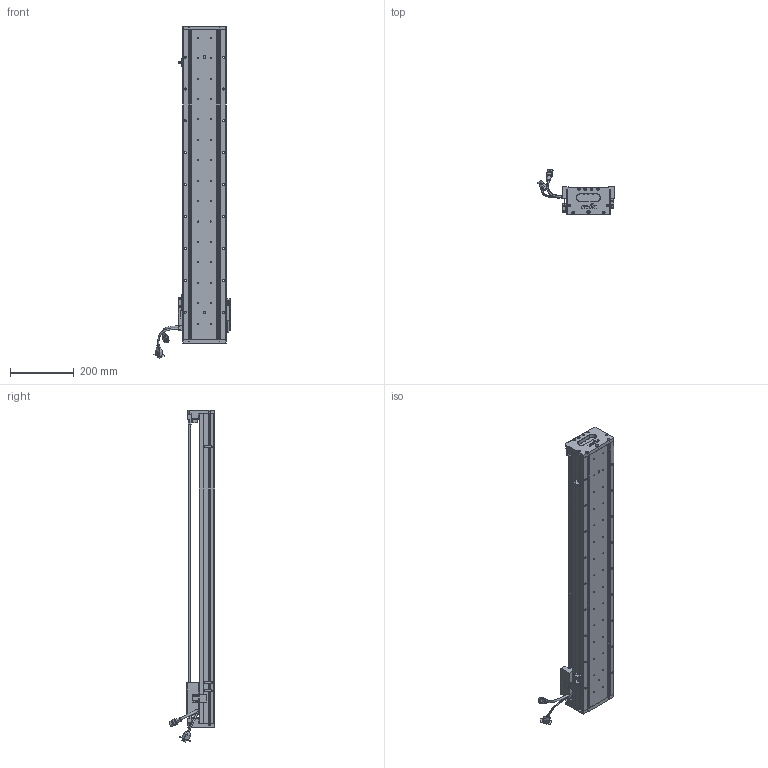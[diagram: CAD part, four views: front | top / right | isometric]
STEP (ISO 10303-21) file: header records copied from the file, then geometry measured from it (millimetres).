
FILE_DESCRIPTION (( 'STEP AP203' ), '1' );
FILE_NAME ('Z1-RY140D-1-L500-B-K.SLDASM_0800.step', '2021-05-17T07:31:04', ( '盈信电脑' ), ( '东莞市道滘镇水果街19号' ), 'SwSTEP 2.0', 'SolidWorks 2016', '' );
FILE_SCHEMA (( 'CONFIG_CONTROL_DESIGN' ));
Length unit declared in the file: millimetre
Products named in the file (36): SCREW-M1.6-2; Z-RY140詩湍奻揤裔; 140蚥薯蝶輸; HOLDER0; SCALE-Part-1; SCALE; Z1-RY140D-1-L500-B-K.SLDASM_0800; Z1-RY140-L500直线电机模组底座_0800; 榋妏寠巭燃_暯_M2_2; SCREW-M1.6-3; 140雄赽晤鎢ん堤盄; SEAL-Part-1; HARNESS-Part-2; 080黍杅芛假蚾釱21遴; COVER-Part-1; SCALE-Part-2; SCREW-M1.7; PBU_SHEET; SCREW-M1.6; Z1-RY140圉猾敕臏賑輸(21遴); SHIELDPLATE; 覜茼ん672; 140-Z-臏賑輸盄裔(21遴); SCREW-M1.6-1; PSLH080_PSLF2; Z-RY140感应器672光电感应片; Z-140詩湍傷裔啣; Z1-RY140-L500詩湍100mm遵_0800; LABEL; HARNESS; Z-RY140詩湍狟揤裔; LABEL-Part-1; SCREW-M1.7-1; SEAL; HARNESS-Part-1; COVER
Assembly tree (41 placements, depth 4):
  Z1-RY140D-1-L500-B-K.SLDASM_0800
    Z1-RY140-L500直线电机模组底座_0800
    Z-RY140感应器672光电感应片
    Z1-RY140圉猾敕臏賑輸(21遴)
    覜茼ん672  x3
    Z1-RY140-L500詩湍100mm遵_0800
    PSLH080_PSLF2
      SCALE
        SCALE-Part-1
        SCALE-Part-2
      HARNESS
        HARNESS-Part-1
        HARNESS-Part-2
      LABEL
        LABEL-Part-1
      COVER
        COVER-Part-1
      SEAL
        SEAL-Part-1
      榋妏寠巭燃_暯_M2_2
      SHIELDPLATE
      SCREW-M1.7
      SCREW-M1.7-1
      PBU_SHEET
      SCREW-M1.6
      SCREW-M1.6-1
      SCREW-M1.6-2
      SCREW-M1.6-3
      HOLDER0
    080黍杅芛假蚾釱21遴
    140-Z-臏賑輸盄裔(21遴)
    Z-140詩湍傷裔啣  x2
    Z-RY140詩湍狟揤裔  x2
    Z-RY140詩湍奻揤裔  x2
    140蚥薯蝶輸  x2
    140雄赽晤鎢ん堤盄
Bounding box: 239.84 x 143.88 x 1040.88 mm (x, y, z)
Volume: 3549991.1 mm3; surface area: 950034.9 mm2
Topology: 36 solids, 36 shells, 2814 faces, 7412 edges, 4697 vertices
Faces by surface type: cylinder 1306, plane 1120, cone 266, torus 69, bspline 53
Entity records: 81892 total; most frequent: CARTESIAN_POINT 20647, ORIENTED_EDGE 11984, DIRECTION 11852, EDGE_CURVE 5992, AXIS2_PLACEMENT_3D 4334, VERTEX_POINT 3865, VECTOR 3184, LINE 3184
